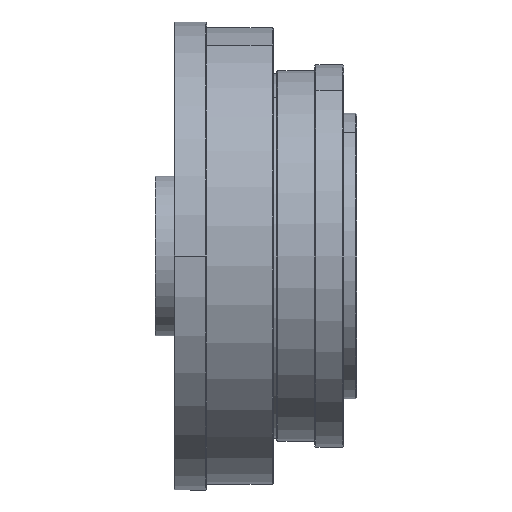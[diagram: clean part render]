
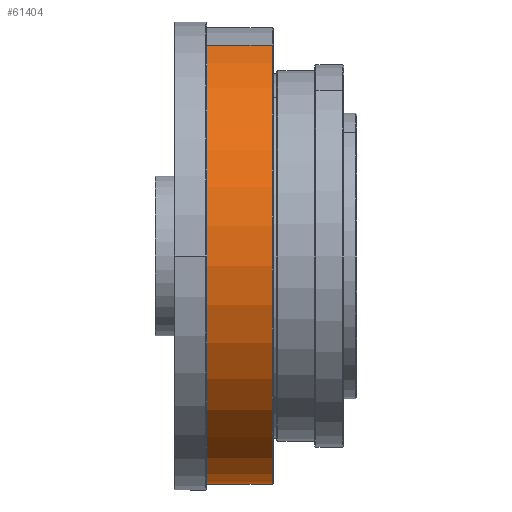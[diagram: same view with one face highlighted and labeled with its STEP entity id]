
A CAD part, front view. The second image highlights one B-rep face of the part: STEP entity #61404.
In plain terms, the highlighted cylindrical face has radius 120 mm (diameter 240 mm), a partial arc.
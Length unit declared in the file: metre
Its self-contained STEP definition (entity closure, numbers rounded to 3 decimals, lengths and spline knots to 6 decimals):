
#363 = DIRECTION ( 'NONE',  ( 0., 0.383, -0.924 ) ) ;
#2463 = CARTESIAN_POINT ( 'NONE',  ( 0.0223, -0.045922, 0.110866 ) ) ;
#2535 = CARTESIAN_POINT ( 'NONE',  ( 0.0615, 0.045922, -0.110866 ) ) ;
#2777 = ORIENTED_EDGE ( 'NONE', *, *, #68594, .T. ) ;
#5669 = DIRECTION ( 'NONE',  ( 0., 0.383, -0.924 ) ) ;
#12385 = VECTOR ( 'NONE', #47395, 1. ) ;
#13890 = DIRECTION ( 'NONE',  ( 1., 0., 0. ) ) ;
#16353 = DIRECTION ( 'NONE',  ( -1., 0., 0. ) ) ;
#16608 = DIRECTION ( 'NONE',  ( -1., 0., 0. ) ) ;
#17379 = DIRECTION ( 'NONE',  ( 0., 0.383, -0.924 ) ) ;
#19662 = DIRECTION ( 'NONE',  ( 0., 0.383, -0.924 ) ) ;
#20575 = VERTEX_POINT ( 'NONE', #71421 ) ;
#25296 = CYLINDRICAL_SURFACE ( 'NONE', #101979, 0.12 ) ;
#25922 = CIRCLE ( 'NONE', #39318, 0.12 ) ;
#26659 = VECTOR ( 'NONE', #70713, 1. ) ;
#32946 = CARTESIAN_POINT ( 'NONE',  ( 0.0223, 0.045922, -0.110866 ) ) ;
#33954 = CARTESIAN_POINT ( 'NONE',  ( 0.0615, -0.045922, 0.110866 ) ) ;
#34087 = VERTEX_POINT ( 'NONE', #2463 ) ;
#34202 = VERTEX_POINT ( 'NONE', #33954 ) ;
#37048 = ORIENTED_EDGE ( 'NONE', *, *, #62954, .F. ) ;
#37402 = FACE_OUTER_BOUND ( 'NONE', #58142, .T. ) ;
#39318 = AXIS2_PLACEMENT_3D ( 'NONE', #85339, #45545, #5669 ) ;
#40577 = AXIS2_PLACEMENT_3D ( 'NONE', #65870, #16608, #363 ) ;
#42271 = DIRECTION ( 'NONE',  ( 0., 0.383, -0.924 ) ) ;
#45545 = DIRECTION ( 'NONE',  ( 1., 0., 0. ) ) ;
#47395 = DIRECTION ( 'NONE',  ( -1., 0., 0. ) ) ;
#47924 = EDGE_CURVE ( 'NONE', #92471, #20575, #59013, .T. ) ;
#50282 = ORIENTED_EDGE ( 'NONE', *, *, #84130, .T. ) ;
#50841 = VERTEX_POINT ( 'NONE', #32946 ) ;
#52338 = EDGE_CURVE ( 'NONE', #20575, #34202, #102866, .T. ) ;
#53960 = CIRCLE ( 'NONE', #94038, 0.12 ) ;
#55271 = LINE ( 'NONE', #95587, #12385 ) ;
#58142 = EDGE_LOOP ( 'NONE', ( #83367, #2777, #50282, #92131, #37048, #86148 ) ) ;
#59013 = CIRCLE ( 'NONE', #40577, 0.12 ) ;
#59220 = LINE ( 'NONE', #91114, #26659 ) ;
#60081 = DIRECTION ( 'NONE',  ( -1., 0., 0. ) ) ;
#60904 = CARTESIAN_POINT ( 'NONE',  ( 0.0223, -0.110866, -0.045922 ) ) ;
#61404 = ADVANCED_FACE ( 'NONE', ( #37402 ), #25296, .T. ) ;
#62954 = EDGE_CURVE ( 'NONE', #92471, #50841, #59220, .T. ) ;
#65870 = CARTESIAN_POINT ( 'NONE',  ( 0.0615, 0., 0. ) ) ;
#68594 = EDGE_CURVE ( 'NONE', #34202, #34087, #55271, .T. ) ;
#70713 = DIRECTION ( 'NONE',  ( -1., 0., 0. ) ) ;
#71421 = CARTESIAN_POINT ( 'NONE',  ( 0.0615, -0.110866, -0.045922 ) ) ;
#81068 = AXIS2_PLACEMENT_3D ( 'NONE', #83084, #60081, #42271 ) ;
#83084 = CARTESIAN_POINT ( 'NONE',  ( 0.0615, 0., 0. ) ) ;
#83367 = ORIENTED_EDGE ( 'NONE', *, *, #52338, .T. ) ;
#83819 = VERTEX_POINT ( 'NONE', #60904 ) ;
#84130 = EDGE_CURVE ( 'NONE', #34087, #83819, #25922, .T. ) ;
#85339 = CARTESIAN_POINT ( 'NONE',  ( 0.0223, 0., 0. ) ) ;
#86148 = ORIENTED_EDGE ( 'NONE', *, *, #47924, .T. ) ;
#88655 = CARTESIAN_POINT ( 'NONE',  ( 0.0218, 0., 0. ) ) ;
#91114 = CARTESIAN_POINT ( 'NONE',  ( 0.0218, 0.045922, -0.110866 ) ) ;
#92131 = ORIENTED_EDGE ( 'NONE', *, *, #102875, .T. ) ;
#92471 = VERTEX_POINT ( 'NONE', #2535 ) ;
#93554 = CARTESIAN_POINT ( 'NONE',  ( 0.0223, 0., 0. ) ) ;
#94038 = AXIS2_PLACEMENT_3D ( 'NONE', #93554, #13890, #19662 ) ;
#95587 = CARTESIAN_POINT ( 'NONE',  ( 0.0218, -0.045922, 0.110866 ) ) ;
#101979 = AXIS2_PLACEMENT_3D ( 'NONE', #88655, #16353, #17379 ) ;
#102866 = CIRCLE ( 'NONE', #81068, 0.12 ) ;
#102875 = EDGE_CURVE ( 'NONE', #83819, #50841, #53960, .T. ) ;
